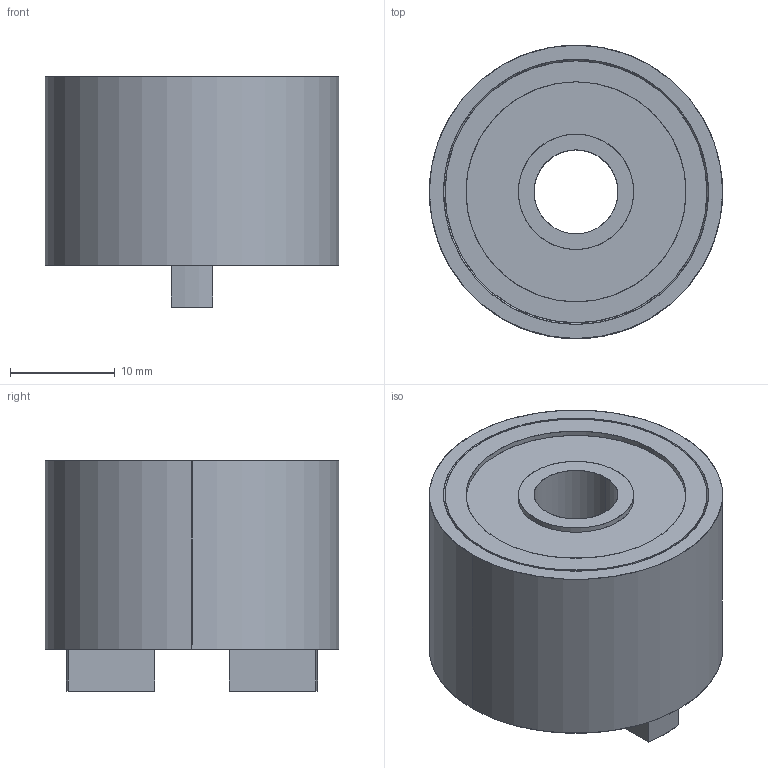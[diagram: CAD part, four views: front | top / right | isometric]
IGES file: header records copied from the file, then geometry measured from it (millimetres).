
Start section: SolidWorks IGES file using analytic representation for surfaces
Global section: file name: C:\3D-DATA\型式\R\【提出用】\IGS\FFD-28SW.IGS; native system: SolidWorks 2014; preprocessor: SolidWorks 2014; author: flgijutsu; date: 140516.195224; units: millimetre
Bounding box: 28 x 28 x 22 mm (x, y, z)
Surface area: 3892.4 mm2 (no closed solid volume)
Topology: 0 solids, 0 shells, 109 faces, 1140 edges, 1140 vertices
Faces by surface type: revolution 70, bspline 39
